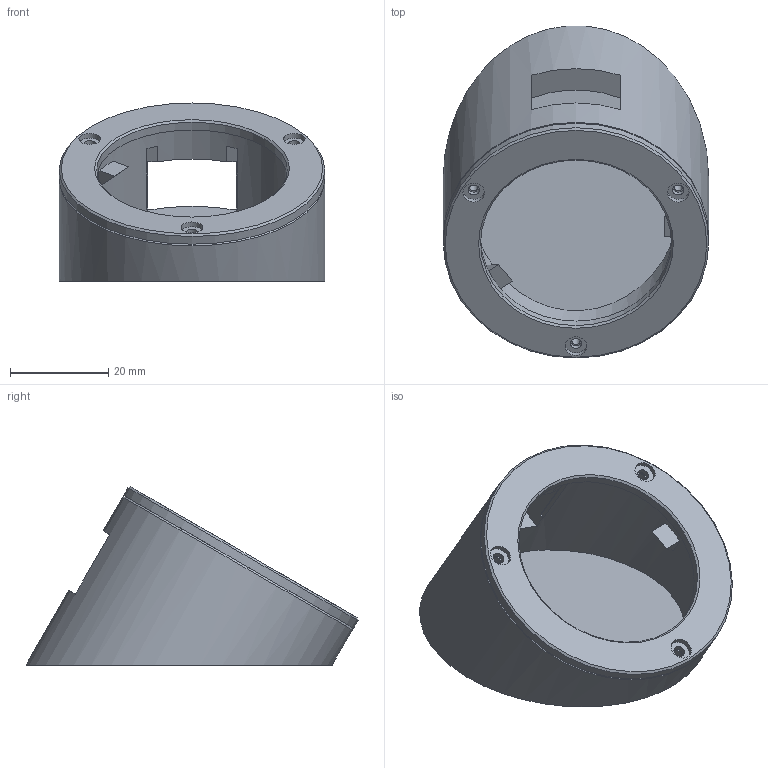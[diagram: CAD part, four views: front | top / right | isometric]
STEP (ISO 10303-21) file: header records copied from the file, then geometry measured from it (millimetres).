
FILE_DESCRIPTION(('Open CASCADE Model'),'2;1');
FILE_NAME('Open CASCADE Shape Model','2026-11-04T16:22:49',('Author'),( 'Open CASCADE'),'Open CASCADE STEP processor 7.9','Open CASCADE 7.9' ,'Unknown');
FILE_SCHEMA(('AUTOMOTIVE_DESIGN { 1 0 10303 214 1 1 1 1 }'));
Length unit declared in the file: millimetre
Products named in the file (3): Dotty-Sliced-Puck; body; bezel
Assembly tree (2 placements, depth 2):
  Dotty-Sliced-Puck
    body
    bezel
Bounding box: 54 x 67.5 x 36.21 mm (x, y, z)
Volume: 23974.8 mm3; surface area: 15111.6 mm2
Topology: 2 solids, 2 shells, 51 faces, 111 edges, 73 vertices
Faces by surface type: plane 35, cylinder 13, cone 3
Full cylindrical faces by diameter (mm): 1.7 x3, 2.3 x3, 4.4 x3, 38.8 x1, 44 x1, 54 x2
Entity records: 3007 total; most frequent: CARTESIAN_POINT 700, DIRECTION 422, ORIENTED_EDGE 222, PCURVE 222, DEFINITIONAL_REPRESENTATION 222, LINE 200, VECTOR 200, EDGE_CURVE 111
